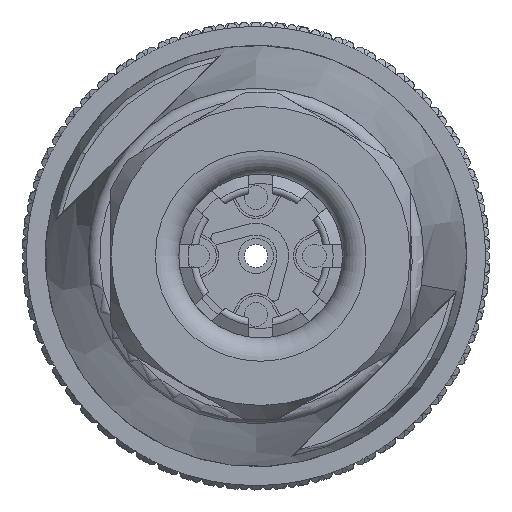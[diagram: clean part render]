
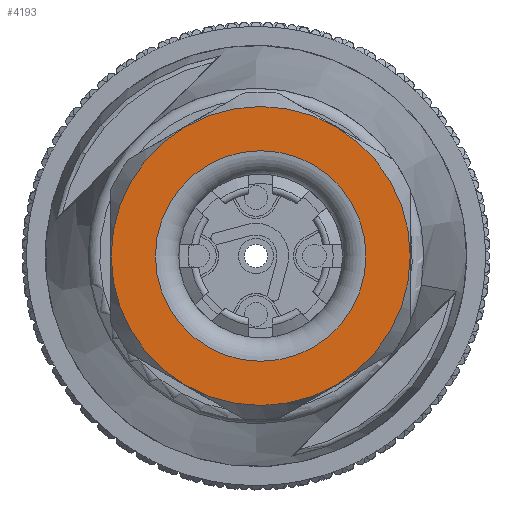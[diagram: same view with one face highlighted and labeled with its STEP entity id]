
A CAD part, front view. The second image highlights one B-rep face of the part: STEP entity #4193.
In plain terms, the highlighted planar face has unit normal (0, -1, 0).
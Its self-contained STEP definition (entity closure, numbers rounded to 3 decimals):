
#4193=ADVANCED_FACE('',(#5826,#5827),#5465,.F.);
#5465=PLANE('',#20499);
#5826=FACE_BOUND('',#6154,.T.);
#5827=FACE_BOUND('',#6155,.T.);
#6154=EDGE_LOOP('',(#8747));
#6155=EDGE_LOOP('',(#8748));
#7605=CIRCLE('',#20497,4.5);
#7606=CIRCLE('',#20498,6.39);
#8747=ORIENTED_EDGE('',*,*,#16595,.T.);
#8748=ORIENTED_EDGE('',*,*,#16596,.T.);
#14713=VERTEX_POINT('',#29560);
#14714=VERTEX_POINT('',#29562);
#16595=EDGE_CURVE('',#14713,#14713,#7605,.T.);
#16596=EDGE_CURVE('',#14714,#14714,#7606,.T.);
#20497=AXIS2_PLACEMENT_3D('',#29559,#22807,#22808);
#20498=AXIS2_PLACEMENT_3D('',#29561,#22809,#22810);
#20499=AXIS2_PLACEMENT_3D('',#29563,#22811,#22812);
#22807=DIRECTION('',(0.,1.,0.));
#22808=DIRECTION('',(1.,0.,0.));
#22809=DIRECTION('',(0.,-1.,0.));
#22810=DIRECTION('',(-1.,0.,0.));
#22811=DIRECTION('',(0.,1.,0.));
#22812=DIRECTION('',(-1.,0.,0.));
#29559=CARTESIAN_POINT('',(0.2,-51.975,0.));
#29560=CARTESIAN_POINT('',(4.7,-51.975,0.));
#29561=CARTESIAN_POINT('',(0.2,-51.975,0.));
#29562=CARTESIAN_POINT('',(-6.19,-51.975,0.));
#29563=CARTESIAN_POINT('',(0.2,-51.975,0.));
